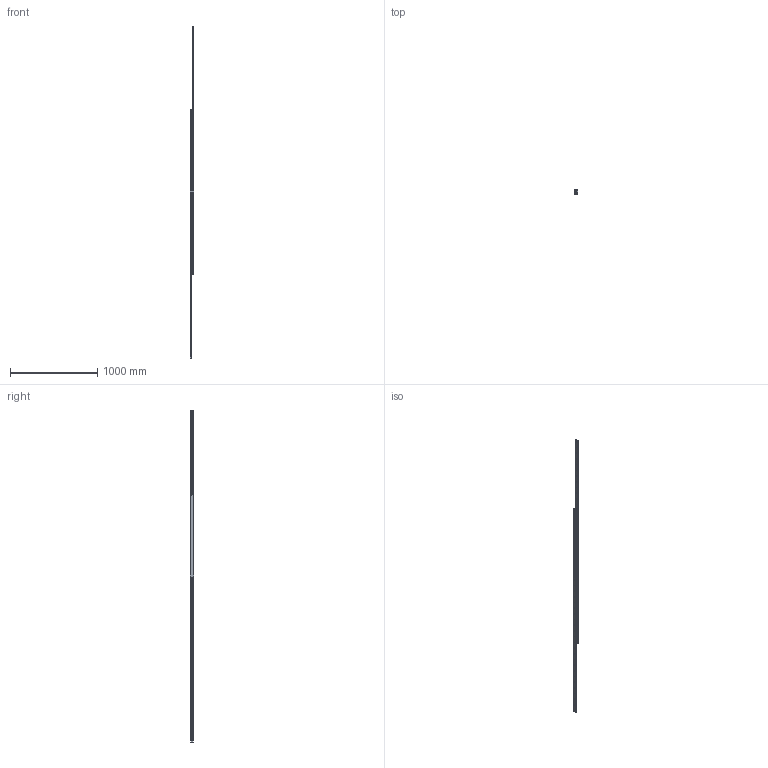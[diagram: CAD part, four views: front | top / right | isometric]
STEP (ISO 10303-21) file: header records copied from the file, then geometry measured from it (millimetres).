
FILE_DESCRIPTION( ( 'STEP AP214' ), '1' );
FILE_NAME( 'p:/temp/worker_81/temp/exporttempdir_3000_718_m64Dr/format_0/DEF43-18901926.stp', '2020-03-20T20:05:17', ( 'License CC BY-ND 4.0' ), ( 'CADENAS' ), ' ', 'PARTsolutions', ' ' );
FILE_SCHEMA( ( 'AUTOMOTIVE_DESIGN { 1 0 10303 214 1 1 1 1 }' ) );
Length unit declared in the file: millimetre
Products named in the file (4): DEF43-18901926; _43211890192612-gf; _4321189019261-ei; _43211890192611-gf
Assembly tree (4 placements, depth 2):
  DEF43-18901926
    _43211890192612-gf
    _4321189019261-ei  x2
    _43211890192611-gf
Bounding box: 44 x 43 x 3816 mm (x, y, z)
Volume: 2335946.3 mm3; surface area: 889115.9 mm2
Topology: 4 solids, 4 shells, 296 faces, 728 edges, 452 vertices
Faces by surface type: plane 102, cone 100, cylinder 94
Full cylindrical faces by diameter (mm): 4.134 x2, 6.647 x48, 7 x2
Entity records: 8748 total; most frequent: DIRECTION 1220, CARTESIAN_POINT 1077, ORIENTED_EDGE 910, AXIS2_PLACEMENT_3D 512, EDGE_LOOP 500, EDGE_CURVE 455, VERTEX_POINT 369, FACE_OUTER_BOUND 298
